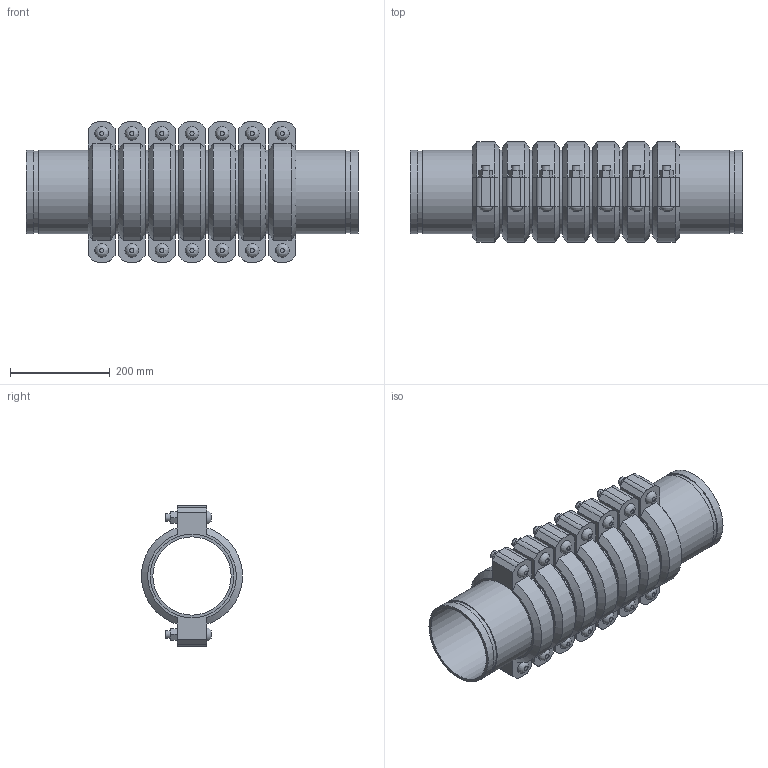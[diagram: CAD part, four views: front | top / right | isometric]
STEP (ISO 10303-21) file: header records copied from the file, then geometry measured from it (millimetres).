
FILE_DESCRIPTION(/* description */ ('VIC EXPANSION JOINT 7 COUPLINGS COMPRESSED STYLE 155 (OGS)','CAx-IF Rec.Pracs.---Representation and Presentation of Product Manufacturing Information (PMI)---4.0---2014-10-13'),/* implementation_level */ '2;1');
FILE_NAME(/* name */ 'C:\Users\kkamble\AppData\Roaming\Autodesk\ApplicationPlugins\Victaulic.Temp\A262\Victaulic_IPS_Expansion Joint_Compressed_7 Couplings_Style 155 (OGS)_6 (150).stp',/* time_stamp */ '2021-06-27T00:34:16+02:00',/* author */ ('kkamble'),/* organization */ ('Victaulic'),/* preprocessor_version */ 'ST-DEVELOPER v17.2',/* originating_system */ 'Autodesk Inventor 2019',/* authorisation */ '');
FILE_SCHEMA (('AP242_MANAGED_MODEL_BASED_3D_ENGINEERING_MIM_LF { 1 0 10303 442 1 1 4 }'));
Length unit declared in the file: inch
Products named in the file (4): 155-06.0; Nipple-06.0; Nipple-06.0_1; 075_7_Coup-06.0
Assembly tree (15 placements, depth 2):
  155-06.0
    Nipple-06.0  x2
    Nipple-06.0_1  x6
    075_7_Coup-06.0  x7
Bounding box: 666.75 x 202.46 x 281.18 mm (x, y, z)
Volume: 6967585.5 mm3; surface area: 1550620.4 mm2
Topology: 15 solids, 29 shells, 495 faces, 1171 edges, 822 vertices
Faces by surface type: plane 300, cylinder 153, cone 28, bspline 14
Full cylindrical faces by diameter (mm): 15.875 x28, 17.424 x14, 157.15 x8, 161.925 x7, 163.957 x16, 168.275 x38
Entity records: 2842 total; most frequent: CARTESIAN_POINT 499, DIRECTION 473, ORIENTED_EDGE 386, EDGE_CURVE 193, AXIS2_PLACEMENT_3D 190, VERTEX_POINT 138, EDGE_LOOP 107, LINE 93
